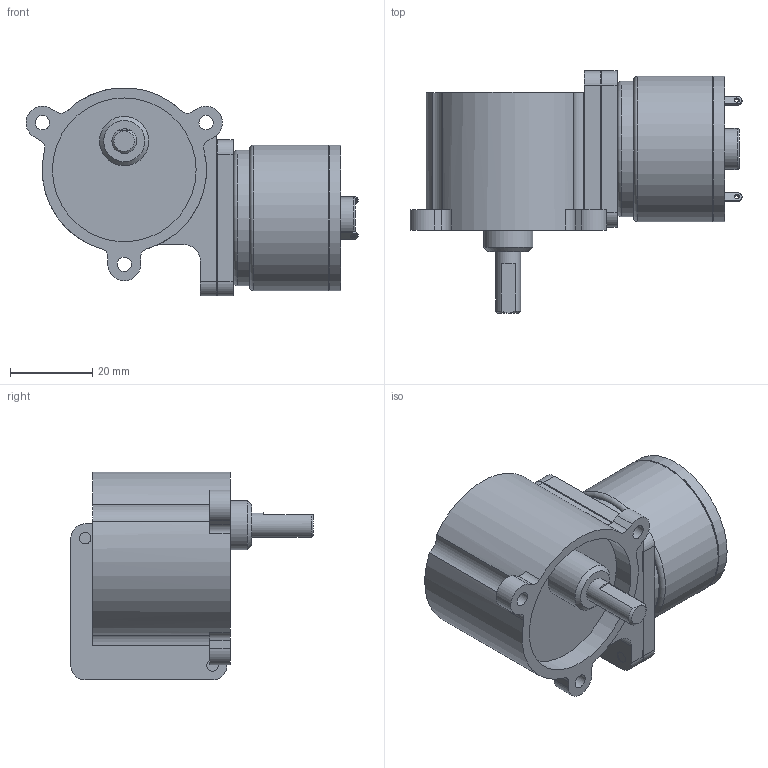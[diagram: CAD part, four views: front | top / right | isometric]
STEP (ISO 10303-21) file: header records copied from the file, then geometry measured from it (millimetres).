
FILE_DESCRIPTION((''),'2;1');
FILE_NAME('C:\Documents and Settings\SSEGAWA\デスクトップ\TP-3526A-KW.STP','2013-07-11T09:58:09',('SSEGAWA'),(''),'Autodesk Inventor 2010','Autodesk Inventor 2010','');
FILE_SCHEMA(('CONFIG_CONTROL_DESIGN'));
Length unit declared in the file: millimetre
Products named in the file (3): tp_3526abcj_kw; kw; tp_3526a,b,c,j
Assembly tree (2 placements, depth 2):
  tp_3526abcj_kw
    kw
    tp_3526a,b,c,j
Bounding box: 80.82 x 59 x 50.63 mm (x, y, z)
Volume: 76941.9 mm3; surface area: 16359.2 mm2
Topology: 2 solids, 2 shells, 118 faces, 286 edges, 191 vertices
Faces by surface type: plane 51, cylinder 42, bspline 20, torus 3, cone 2
Full cylindrical faces by diameter (mm): 2 x1, 4 x1, 6 x1, 10 x3, 12 x1, 33 x1, 35 x2, 35.4 x2
Entity records: 3549 total; most frequent: CARTESIAN_POINT 855, DIRECTION 566, ORIENTED_EDGE 480, EDGE_CURVE 240, AXIS2_PLACEMENT_3D 225, EDGE_LOOP 179, VERTEX_POINT 177, CIRCLE 122
